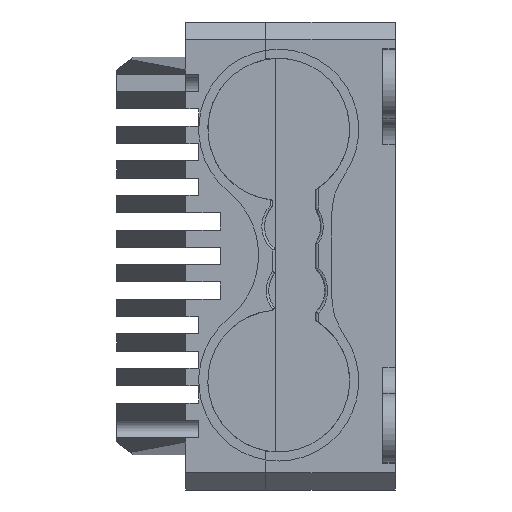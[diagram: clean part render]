
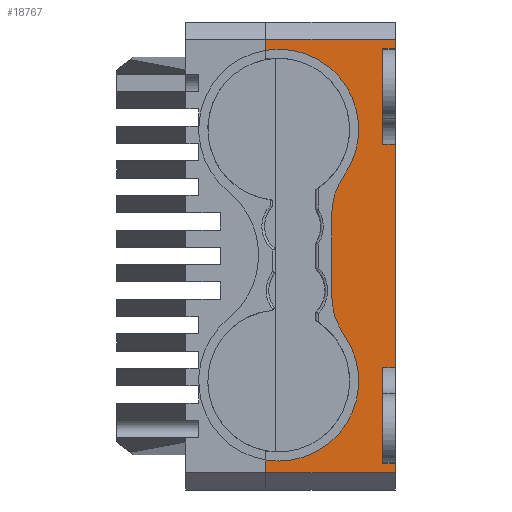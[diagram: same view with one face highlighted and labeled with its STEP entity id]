
A CAD part, left-side view. The second image highlights one B-rep face of the part: STEP entity #18767.
In plain terms, the highlighted planar face has unit normal (-1, 0, 0) as drawn and (1, 0, 0) by its records, which use the part's own axes.
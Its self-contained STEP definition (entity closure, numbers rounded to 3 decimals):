
#1191=FACE_OUTER_BOUND('',#2307,.T.);
#2307=EDGE_LOOP('',(#16569,#16570,#16571,#16572,#16573,#16574,#16575,#16576,
#16577,#16578,#16579,#16580,#16581,#16582,#16583,#16584,#16585,#16586,#16587,
#16588));
#2573=CIRCLE('',#19955,8.);
#2574=CIRCLE('',#19956,9.25);
#2575=CIRCLE('',#19957,9.25);
#2576=CIRCLE('',#19958,8.);
#4751=LINE('',#29545,#7156);
#4754=LINE('',#29558,#7159);
#4774=LINE('',#29639,#7179);
#4778=LINE('',#29649,#7183);
#4789=LINE('',#29679,#7194);
#4825=LINE('',#29790,#7230);
#4857=LINE('',#29950,#7262);
#4887=LINE('',#30015,#7292);
#4895=LINE('',#30033,#7300);
#4897=LINE('',#30041,#7302);
#4898=LINE('',#30043,#7303);
#4899=LINE('',#30044,#7304);
#4900=LINE('',#30046,#7305);
#4901=LINE('',#30048,#7306);
#4902=LINE('',#30049,#7307);
#4903=LINE('',#30054,#7308);
#7156=VECTOR('',#24105,10.);
#7159=VECTOR('',#24116,10.);
#7179=VECTOR('',#24196,10.);
#7183=VECTOR('',#24206,10.);
#7194=VECTOR('',#24241,10.);
#7230=VECTOR('',#24365,10.);
#7262=VECTOR('',#24457,10.);
#7292=VECTOR('',#24499,10.);
#7300=VECTOR('',#24513,10.);
#7302=VECTOR('',#24521,10.);
#7303=VECTOR('',#24522,10.);
#7304=VECTOR('',#24523,10.);
#7305=VECTOR('',#24524,10.);
#7306=VECTOR('',#24525,10.);
#7307=VECTOR('',#24526,10.);
#7308=VECTOR('',#24531,10.);
#8935=VERTEX_POINT('',#29543);
#8936=VERTEX_POINT('',#29544);
#8941=VERTEX_POINT('',#29556);
#8942=VERTEX_POINT('',#29557);
#8972=VERTEX_POINT('',#29635);
#8976=VERTEX_POINT('',#29647);
#9014=VERTEX_POINT('',#29788);
#9049=VERTEX_POINT('',#29947);
#9050=VERTEX_POINT('',#29949);
#9078=VERTEX_POINT('',#30012);
#9079=VERTEX_POINT('',#30014);
#9086=VERTEX_POINT('',#30031);
#9087=VERTEX_POINT('',#30036);
#9088=VERTEX_POINT('',#30037);
#9089=VERTEX_POINT('',#30040);
#9090=VERTEX_POINT('',#30042);
#9091=VERTEX_POINT('',#30045);
#9092=VERTEX_POINT('',#30047);
#9093=VERTEX_POINT('',#30050);
#9094=VERTEX_POINT('',#30052);
#11409=EDGE_CURVE('',#8935,#8936,#4751,.T.);
#11415=EDGE_CURVE('',#8941,#8942,#4754,.T.);
#11455=EDGE_CURVE('',#8935,#8972,#4774,.T.);
#11460=EDGE_CURVE('',#8976,#8942,#4778,.T.);
#11476=EDGE_CURVE('',#8972,#8976,#4789,.T.);
#11532=EDGE_CURVE('',#8936,#9014,#4825,.T.);
#11583=EDGE_CURVE('',#9049,#9050,#4857,.T.);
#11616=EDGE_CURVE('',#9078,#9079,#4887,.T.);
#11626=EDGE_CURVE('',#9086,#9078,#4895,.T.);
#11628=EDGE_CURVE('',#9087,#9088,#2573,.T.);
#11629=EDGE_CURVE('',#9088,#9079,#2574,.T.);
#11630=EDGE_CURVE('',#9089,#9086,#4897,.T.);
#11631=EDGE_CURVE('',#9089,#9090,#4898,.T.);
#11632=EDGE_CURVE('',#9090,#8941,#4899,.T.);
#11633=EDGE_CURVE('',#9014,#9091,#4900,.T.);
#11634=EDGE_CURVE('',#9092,#9091,#4901,.T.);
#11635=EDGE_CURVE('',#9050,#9092,#4902,.T.);
#11636=EDGE_CURVE('',#9049,#9093,#2575,.T.);
#11637=EDGE_CURVE('',#9093,#9094,#2576,.T.);
#11638=EDGE_CURVE('',#9094,#9087,#4903,.T.);
#16569=ORIENTED_EDGE('',*,*,#11628,.T.);
#16570=ORIENTED_EDGE('',*,*,#11629,.T.);
#16571=ORIENTED_EDGE('',*,*,#11616,.F.);
#16572=ORIENTED_EDGE('',*,*,#11626,.F.);
#16573=ORIENTED_EDGE('',*,*,#11630,.F.);
#16574=ORIENTED_EDGE('',*,*,#11631,.T.);
#16575=ORIENTED_EDGE('',*,*,#11632,.T.);
#16576=ORIENTED_EDGE('',*,*,#11415,.T.);
#16577=ORIENTED_EDGE('',*,*,#11460,.F.);
#16578=ORIENTED_EDGE('',*,*,#11476,.F.);
#16579=ORIENTED_EDGE('',*,*,#11455,.F.);
#16580=ORIENTED_EDGE('',*,*,#11409,.T.);
#16581=ORIENTED_EDGE('',*,*,#11532,.T.);
#16582=ORIENTED_EDGE('',*,*,#11633,.T.);
#16583=ORIENTED_EDGE('',*,*,#11634,.F.);
#16584=ORIENTED_EDGE('',*,*,#11635,.F.);
#16585=ORIENTED_EDGE('',*,*,#11583,.F.);
#16586=ORIENTED_EDGE('',*,*,#11636,.T.);
#16587=ORIENTED_EDGE('',*,*,#11637,.T.);
#16588=ORIENTED_EDGE('',*,*,#11638,.T.);
#17823=PLANE('',#19954);
#18767=ADVANCED_FACE('',(#1191),#17823,.T.);
#19954=AXIS2_PLACEMENT_3D('',#30035,#24515,#24516);
#19955=AXIS2_PLACEMENT_3D('',#30038,#24517,#24518);
#19956=AXIS2_PLACEMENT_3D('',#30039,#24519,#24520);
#19957=AXIS2_PLACEMENT_3D('',#30051,#24527,#24528);
#19958=AXIS2_PLACEMENT_3D('',#30053,#24529,#24530);
#24105=DIRECTION('',(0.,0.,1.));
#24116=DIRECTION('',(0.,0.,1.));
#24196=DIRECTION('',(0.,1.,0.));
#24206=DIRECTION('',(0.,-1.,0.));
#24241=DIRECTION('',(0.,0.,-1.));
#24365=DIRECTION('',(0.,0.,1.));
#24457=DIRECTION('',(0.,0.,1.));
#24499=DIRECTION('',(0.,0.,1.));
#24513=DIRECTION('',(0.,-1.,0.));
#24515=DIRECTION('center_axis',(1.,0.,0.));
#24516=DIRECTION('ref_axis',(0.,0.,-1.));
#24517=DIRECTION('center_axis',(1.,0.,0.));
#24518=DIRECTION('ref_axis',(0.,-0.954,-0.301));
#24519=DIRECTION('center_axis',(-1.,0.,0.));
#24520=DIRECTION('ref_axis',(0.,0.,1.));
#24521=DIRECTION('',(0.,0.,-1.));
#24522=DIRECTION('',(0.,-1.,0.));
#24523=DIRECTION('',(0.,0.,1.));
#24524=DIRECTION('',(0.,1.,0.));
#24525=DIRECTION('',(0.,0.,-1.));
#24526=DIRECTION('',(0.,1.,0.));
#24527=DIRECTION('center_axis',(-1.,0.,0.));
#24528=DIRECTION('ref_axis',(0.,0.,1.));
#24529=DIRECTION('center_axis',(1.,0.,0.));
#24530=DIRECTION('ref_axis',(0.,-0.954,0.301));
#24531=DIRECTION('',(0.,0.,-1.));
#29543=CARTESIAN_POINT('',(46.35,14.65,12.9));
#29544=CARTESIAN_POINT('',(46.35,14.65,23.9));
#29545=CARTESIAN_POINT('',(46.35,14.65,12.975));
#29556=CARTESIAN_POINT('',(46.35,14.65,-23.9));
#29557=CARTESIAN_POINT('',(46.35,14.65,-12.9));
#29558=CARTESIAN_POINT('',(46.35,14.65,12.975));
#29635=CARTESIAN_POINT('',(46.35,16.15,12.9));
#29639=CARTESIAN_POINT('',(46.35,15.9,12.9));
#29647=CARTESIAN_POINT('',(46.35,16.15,-12.9));
#29649=CARTESIAN_POINT('',(46.35,15.9,-12.9));
#29679=CARTESIAN_POINT('',(46.35,16.15,-23.9));
#29788=CARTESIAN_POINT('',(46.35,14.65,23.95));
#29790=CARTESIAN_POINT('',(46.35,14.65,12.975));
#29947=CARTESIAN_POINT('',(46.35,1.15,23.778));
#29949=CARTESIAN_POINT('',(46.35,1.15,25.05));
#29950=CARTESIAN_POINT('',(46.35,1.15,24.85));
#30012=CARTESIAN_POINT('',(46.35,1.15,-25.05));
#30014=CARTESIAN_POINT('',(46.35,1.15,-23.578));
#30015=CARTESIAN_POINT('',(46.35,1.15,1.663));
#30031=CARTESIAN_POINT('',(46.35,16.15,-25.05));
#30033=CARTESIAN_POINT('',(46.35,2.875,-25.05));
#30035=CARTESIAN_POINT('Origin',(46.35,4.6,25.95));
#30036=CARTESIAN_POINT('',(46.35,8.782,-4.558));
#30037=CARTESIAN_POINT('',(46.35,10.228,-9.145));
#30038=CARTESIAN_POINT('Origin',(46.35,16.782,-4.558));
#30039=CARTESIAN_POINT('Origin',(46.35,2.65,-14.45));
#30040=CARTESIAN_POINT('',(46.35,16.15,-23.95));
#30041=CARTESIAN_POINT('',(46.35,16.15,0.5));
#30042=CARTESIAN_POINT('',(46.35,14.65,-23.95));
#30043=CARTESIAN_POINT('',(46.35,10.125,-23.95));
#30044=CARTESIAN_POINT('',(46.35,14.65,12.975));
#30045=CARTESIAN_POINT('',(46.35,16.15,23.95));
#30046=CARTESIAN_POINT('',(46.35,10.125,23.95));
#30047=CARTESIAN_POINT('',(46.35,16.15,25.05));
#30048=CARTESIAN_POINT('',(46.35,16.15,0.5));
#30049=CARTESIAN_POINT('',(46.35,2.875,25.05));
#30050=CARTESIAN_POINT('',(46.35,10.228,9.345));
#30051=CARTESIAN_POINT('Origin',(46.35,2.65,14.65));
#30052=CARTESIAN_POINT('',(46.35,8.782,4.758));
#30053=CARTESIAN_POINT('Origin',(46.35,16.782,4.758));
#30054=CARTESIAN_POINT('',(46.35,8.782,9.213));
